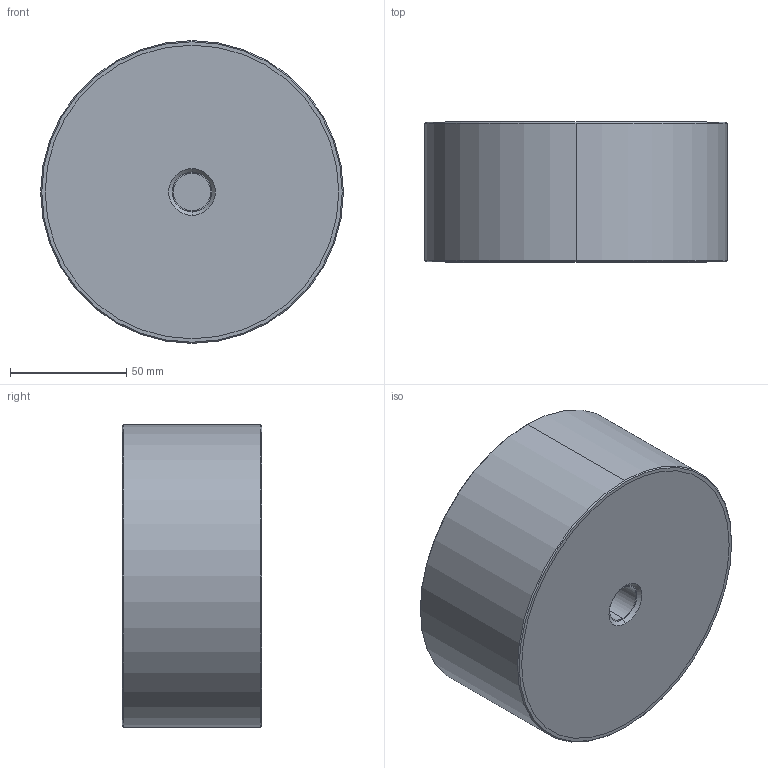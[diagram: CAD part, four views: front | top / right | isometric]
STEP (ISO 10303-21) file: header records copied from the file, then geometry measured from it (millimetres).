
FILE_DESCRIPTION (( 'STEP AP203' ), '1' );
FILE_NAME ('61080.W0932.step', '2018-07-16T20:48:01', ( '' ), ( '' ), 'SwSTEP 2.0', 'SolidWorks 2017', '' );
FILE_SCHEMA (( 'CONFIG_CONTROL_DESIGN' ));
Length unit declared in the file: millimetre
Products named in the file (4): Part1_61080.W0932; Part2_61080.W0932; 61080.W0932; Part3_61080.W0932
Assembly tree (3 placements, depth 2):
  61080.W0932
    Part1_61080.W0932
    Part2_61080.W0932
    Part3_61080.W0932
Bounding box: 130 x 60 x 130 mm (x, y, z)
Volume: 789652.9 mm3; surface area: 103684 mm2
Topology: 3 solids, 3 shells, 32 faces, 62 edges, 40 vertices
Faces by surface type: cylinder 14, plane 10, cone 8
Entity records: 1256 total; most frequent: DIRECTION 178, CARTESIAN_POINT 140, ORIENTED_EDGE 124, AXIS2_PLACEMENT_3D 78, EDGE_CURVE 62, EDGE_LOOP 40, CIRCLE 40, VERTEX_POINT 40
